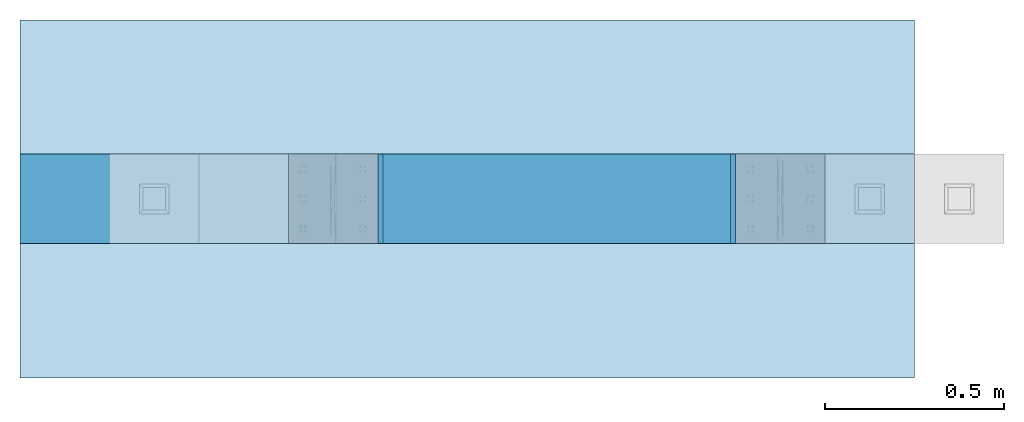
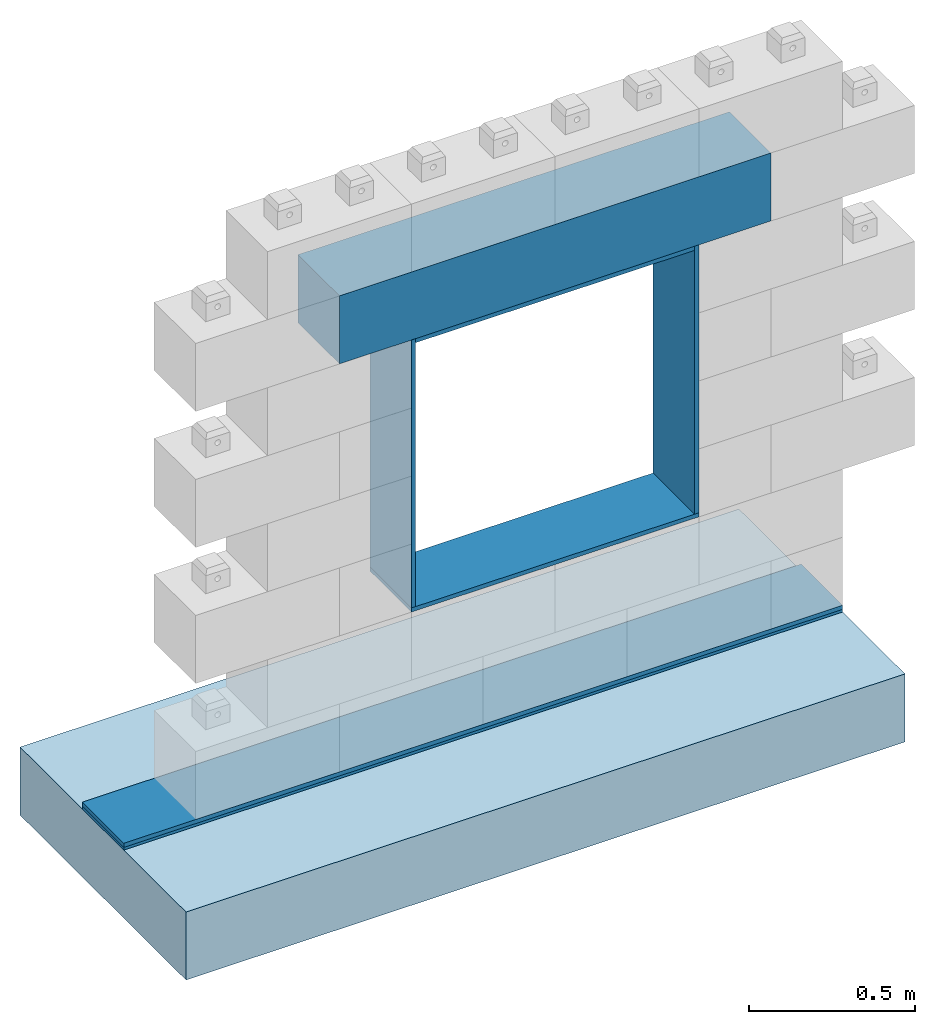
# One storey, incomplete: 6 beams, 1 slab, 1 wall.
"""IFC4 building model written with IfcOpenShell, lengths in centimetres."""

from ifc_helpers import new_model, entity, si_unit, converted_unit, direction, frame, origin, place, context, subcontext, project, spatial, indexed_curve, outline, extrude, source, transform, mapped, material, type_object, type_shapes, element, save


model = new_model("IFC4")

# Units and contexts
model_context = context("Model", 3, precision=0.001, world=origin(), true_north=direction((0.0, 1.0)))
body_context = subcontext(model_context, "Body", "Model", "MODEL_VIEW")
ifc_project = project(units=[si_unit("LENGTHUNIT", "METRE", prefix="CENTI"), si_unit("AREAUNIT", "SQUARE_METRE"), si_unit("VOLUMEUNIT", "CUBIC_METRE"), converted_unit("PLANEANGLEUNIT", "DEGREE", entity("IfcPlaneAngleMeasure", 0.017453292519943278), si_unit("PLANEANGLEUNIT", "RADIAN"), dimensions=[0, 0, 0, 0, 0, 0, 0])], contexts=[model_context])

# Site, building, storey
site_placement = place(None, origin())
site = spatial("IfcSite", under=ifc_project, at=site_placement, Name="Default", CompositionType="ELEMENT")
building_placement = place(site_placement, origin())
building = spatial("IfcBuilding", under=site, at=building_placement, CompositionType="ELEMENT")
storey_placement = place(building_placement, frame((0.0, 0.0, -12.0)))
storey = spatial("IfcBuildingStorey", under=building, at=storey_placement, Name="L00__ABOVE Slab", CompositionType="ELEMENT", Elevation=-12.000000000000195)

# Beams
ifc_material_1 = material(Name="_STRUCTURE__Wood")
beam_type_1 = type_object("IfcBeamType", Name="Structural Framing : sfr__WOOD__Rectangular__sf : 15 x 1cm", PredefinedType="BEAM", material=ifc_material_1)
shared_shape_1 = source(origin(), body_context, "Body", "SweptSolid", [
    extrude(outline(indexed_curve([(-50.000000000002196, -12.500000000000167), (50.000000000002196, -12.500000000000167), (50.000000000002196, 12.500000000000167), (-50.000000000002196, 12.500000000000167), (-50.000000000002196, -12.500000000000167)], self_intersect=False)), frame((-25.0, 0.0, -0.7500000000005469), z_axis=(0.0, 0.0, 1.0), x_axis=(-1.0, 0.0, 0.0)), (0.0, 0.0, 1.0), 1.4999999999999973),
])
type_shapes(beam_type_1, [shared_shape_1])
beam_1_placement = place(storey_placement, frame((2900.6494566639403, 1445.3718731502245, 60.75000000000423), z_axis=(0.0, 0.0, 1.0), x_axis=(-1.0, 0.0, 0.0)))
element("IfcBeam", 1, at=beam_1_placement, inside=storey, type_object=beam_type_1, material=ifc_material_1, Name="Structural Framing : sfr__WOOD__Rectangular__sf : 15 x 1cm", PredefinedType="BEAM", context=body_context, shape_type="MappedRepresentation", body=[
    mapped(shared_shape_1, transform((0.0, 0.0, 0.0), scale=1.0)),
])
ifc_material_2 = material(Name="_MASONRY__Timber Block__Triqbriq, Filler", Category="Miscellaneous")
beam_type_2 = type_object("IfcBeamType", Name="Structural Framing : sfr__WOOD__Rectangular__sf : 15 x 25cm", PredefinedType="BEAM", material=ifc_material_2)
shared_shape_2 = source(origin(), body_context, "Body", "SweptSolid", [
    extrude(outline(indexed_curve([(-75.00000000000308, -12.500000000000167), (75.00000000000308, -12.500000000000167), (75.00000000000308, 12.500000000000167), (-75.00000000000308, 12.500000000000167), (-75.00000000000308, -12.500000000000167)], self_intersect=False)), frame((25.0, 0.0, -12.500000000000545), z_axis=(0.0, 0.0, 1.0), x_axis=(-1.0, 0.0, 0.0)), (0.0, 0.0, 1.0), 24.999999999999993),
])
type_shapes(beam_type_2, [shared_shape_2])
beam_2_placement = place(storey_placement, frame((2900.64945666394, 1445.371873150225, 172.50000000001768)))
element("IfcBeam", 2, at=beam_2_placement, inside=storey, type_object=beam_type_2, material=ifc_material_2, Name="Structural Framing : sfr__WOOD__Rectangular__sf : 15 x 25cm", PredefinedType="BEAM", context=body_context, shape_type="MappedRepresentation", body=[
    mapped(shared_shape_2, transform((0.0, 0.0, 0.0), scale=1.0)),
])
beam_type_3 = type_object("IfcBeamType", Name="Structural Framing : sfr__WOOD__Rectangular__sf : 15 x 1cm", PredefinedType="BEAM", material=ifc_material_1)
shared_shape_3 = source(origin(), body_context, "Body", "SweptSolid", [
    extrude(outline(indexed_curve([(-49.250000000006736, -12.500000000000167), (49.250000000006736, -12.500000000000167), (49.250000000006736, 12.500000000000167), (-49.250000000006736, 12.500000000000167), (-49.250000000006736, -12.500000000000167)], self_intersect=False)), frame((-5.499999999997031, 0.0, -0.7500000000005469), z_axis=(0.0, 0.0, 1.0), x_axis=(-1.0, 0.0, 0.0)), (0.0, 0.0, 1.0), 1.4999999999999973),
])
type_shapes(beam_type_3, [shared_shape_3])
beam_3_placement = place(storey_placement, frame((2876.399456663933, 1445.3718731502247, 116.25000000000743), z_axis=(-1.0, 0.0, 0.0), x_axis=(0.0, 0.0, 1.0)))
element("IfcBeam", 3, at=beam_3_placement, inside=storey, type_object=beam_type_3, material=ifc_material_1, Name="Structural Framing : sfr__WOOD__Rectangular__sf : 15 x 1cm", PredefinedType="BEAM", context=body_context, shape_type="MappedRepresentation", body=[
    mapped(shared_shape_3, transform((0.0, 0.0, 0.0), scale=1.0)),
])
beam_type_4 = type_object("IfcBeamType", Name="Structural Framing : sfr__WOOD__Rectangular__sf : 15 x 1cm", PredefinedType="BEAM", material=ifc_material_1)
shared_shape_4 = source(origin(), body_context, "Body", "SweptSolid", [
    extrude(outline(indexed_curve([(-49.250000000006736, -12.500000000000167), (49.250000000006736, -12.500000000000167), (49.250000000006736, 12.500000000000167), (-49.250000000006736, 12.500000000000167), (-49.250000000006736, -12.500000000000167)], self_intersect=False)), frame((-7.0, 0.0, -0.7500000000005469), z_axis=(0.0, 0.0, 1.0), x_axis=(-1.0, 0.0, 0.0)), (0.0, 0.0, 1.0), 1.4999999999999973),
])
type_shapes(beam_type_4, [shared_shape_4])
beam_4_placement = place(storey_placement, frame((2974.899456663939, 1445.3718731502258, 103.75000000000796), z_axis=(1.0, 0.0, 0.0), x_axis=(0.0, 0.0, -1.0)))
element("IfcBeam", 4, at=beam_4_placement, inside=storey, type_object=beam_type_4, material=ifc_material_1, Name="Structural Framing : sfr__WOOD__Rectangular__sf : 15 x 1cm", PredefinedType="BEAM", context=body_context, shape_type="MappedRepresentation", body=[
    mapped(shared_shape_4, transform((0.0, 0.0, 0.0), scale=1.0)),
])
beam_type_5 = type_object("IfcBeamType", Name="Structural Framing : sfr__WOOD__Rectangular__sf : 15 x 1cm", PredefinedType="BEAM", material=ifc_material_1)
shared_shape_5 = source(origin(), body_context, "Body", "SweptSolid", [
    extrude(outline(indexed_curve([(-124.99999999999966, -12.500000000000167), (124.99999999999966, -12.500000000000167), (124.99999999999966, 12.500000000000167), (-124.99999999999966, 12.500000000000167), (-124.99999999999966, -12.500000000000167)], self_intersect=False)), frame((0.0, 0.0, -0.7500000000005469), z_axis=(0.0, 0.0, 1.0), x_axis=(-1.0, 0.0, 0.0)), (0.0, 0.0, 1.0), 1.4999999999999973),
])
type_shapes(beam_type_5, [shared_shape_5])
beam_5_placement = place(storey_placement, frame((2900.6494566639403, 1445.3718731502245, 8.250000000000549), z_axis=(0.0, 0.0, 1.0), x_axis=(-1.0, 0.0, 0.0)))
element("IfcBeam", 5, at=beam_5_placement, inside=storey, type_object=beam_type_5, material=ifc_material_1, Name="Structural Framing : sfr__WOOD__Rectangular__sf : 15 x 1cm", PredefinedType="BEAM", context=body_context, shape_type="MappedRepresentation", body=[
    mapped(shared_shape_5, transform((0.0, 0.0, 0.0), scale=1.0)),
])
beam_type_6 = type_object("IfcBeamType", Name="Structural Framing : sfr__WOOD__Rectangular__sf : 15 x 1cm", PredefinedType="BEAM", material=ifc_material_1)
shared_shape_6 = source(origin(), body_context, "Body", "SweptSolid", [
    extrude(outline(indexed_curve([(-48.5000000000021, -12.500000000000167), (48.5000000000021, -12.500000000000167), (48.5000000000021, 12.500000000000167), (-48.5000000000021, 12.500000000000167), (-48.5000000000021, -12.500000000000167)], self_intersect=False)), frame((-25.0, 0.0, -0.7500000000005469), z_axis=(0.0, 0.0, 1.0), x_axis=(-1.0, 0.0, 0.0)), (0.0, 0.0, 1.0), 1.4999999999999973),
])
type_shapes(beam_type_6, [shared_shape_6])
beam_6_placement = place(storey_placement, frame((2900.6494566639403, 1445.3718731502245, 159.2500000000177), z_axis=(0.0, 0.0, 1.0), x_axis=(-1.0, 0.0, 0.0)))
element("IfcBeam", 6, at=beam_6_placement, inside=storey, type_object=beam_type_6, material=ifc_material_1, Name="Structural Framing : sfr__WOOD__Rectangular__sf : 15 x 1cm", PredefinedType="BEAM", context=body_context, shape_type="MappedRepresentation", body=[
    mapped(shared_shape_6, transform((0.0, 0.0, 0.0), scale=1.0)),
])

# Slab
ifc_material_3 = material(Name="_STRUCTURE__Reinforced Concrete")
slab_type = type_object("IfcSlabType", Name="Floors : Floor : flr__STRUCTURE__Reinforced Concrete 25cm", PredefinedType="FLOOR", material=ifc_material_3)
slab_placement = place(storey_placement, origin())
element("IfcSlab", 7, at=slab_placement, inside=storey, type_object=slab_type, material=ifc_material_3, Name="Floors : Floor : flr__STRUCTURE__Reinforced Concrete 25cm", PredefinedType="FLOOR", context=body_context, shape_type="SweptSolid", body=[
    extrude(outline(indexed_curve([(-50.00000000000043, -125.00000000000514), (49.99999999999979, -125.00000000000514), (50.00000000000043, 125.00000000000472), (-49.99999999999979, 125.00000000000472), (-50.00000000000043, -125.00000000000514)], self_intersect=False)), frame((2900.649456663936, 1445.3718731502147, 7.5), z_axis=(0.0, 0.0, -1.0), x_axis=(0.0, 1.0, 0.0)), (0.0, 0.0, 1.0), 25.0),
])

# Wall
ifc_material_4 = material(Name="_STRUCTURE__Wood Solid")
wall_type = type_object("IfcWallType", Name="Columns : wll_s__DECOUPLING BEAM__Rectangular__wp : Wood", PredefinedType="SOLIDWALL", material=ifc_material_4)
wall_placement = place(storey_placement, frame((2775.6494566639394, 1432.8718731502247, 8.50000000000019)))
element("IfcWall", 8, at=wall_placement, inside=storey, type_object=wall_type, material=ifc_material_4, Name="Columns : wll_s__DECOUPLING BEAM__Rectangular__wp : Wood", PredefinedType="SOLIDWALL", context=body_context, shape_type="SweptSolid", body=[
    extrude(outline(indexed_curve([(-125.0000000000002, -12.499999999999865), (125.00000000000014, -12.499999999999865), (124.99999999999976, 12.500000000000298), (-125.00000000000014, 12.500000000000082), (-125.0000000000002, -12.499999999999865)], self_intersect=False)), frame((125.0, 12.500000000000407, 0.0), z_axis=(0.0, 0.0, 1.0), x_axis=(-1.0, 0.0, 0.0)), (0.0, 0.0, 1.0), 1.4999999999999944),
])

save(model, "model.ifc")
